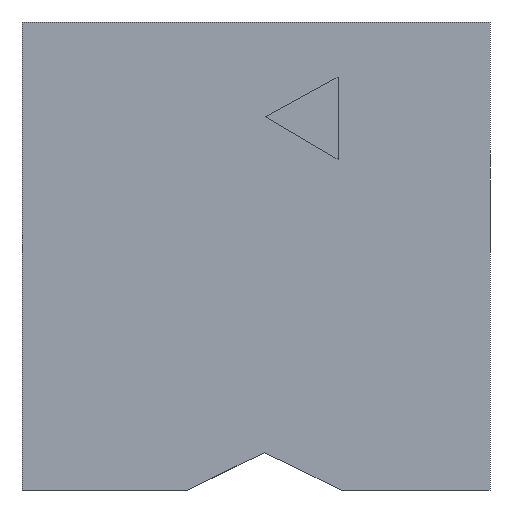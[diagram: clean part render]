
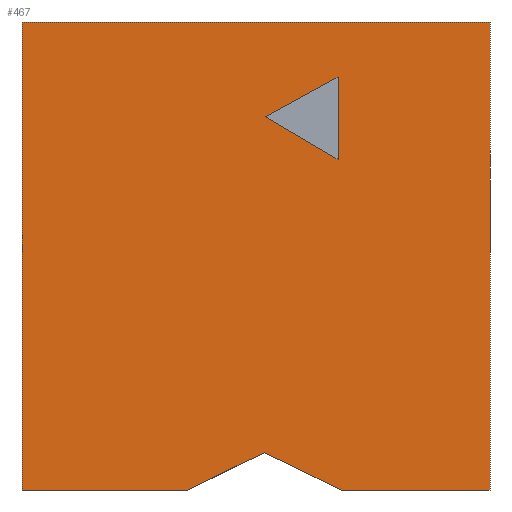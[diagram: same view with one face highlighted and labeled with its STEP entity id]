
A CAD part, front view. The second image highlights one B-rep face of the part: STEP entity #467.
In plain terms, the highlighted planar face has unit normal (0, -1, 0).
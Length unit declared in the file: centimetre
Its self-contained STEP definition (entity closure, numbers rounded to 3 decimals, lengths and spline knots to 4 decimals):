
#27 = LINE ( 'NONE', #169, #1761 ) ;
#40 = VECTOR ( 'NONE', #1564, 100. ) ;
#62 = ORIENTED_EDGE ( 'NONE', *, *, #796, .T. ) ;
#63 = CARTESIAN_POINT ( 'NONE',  ( 0., 0., 1000. ) ) ;
#73 = VECTOR ( 'NONE', #714, 100. ) ;
#77 = VECTOR ( 'NONE', #1599, 100. ) ;
#93 = CARTESIAN_POINT ( 'NONE',  ( 0., 0., 0. ) ) ;
#103 = CARTESIAN_POINT ( 'NONE',  ( 517.8257, 0., 79.8723 ) ) ;
#151 = CARTESIAN_POINT ( 'NONE',  ( 675.2194, 0., 706.2816 ) ) ;
#169 = CARTESIAN_POINT ( 'NONE',  ( 675.2194, 0., 706.2816 ) ) ;
#212 = PLANE ( 'NONE',  #804 ) ;
#217 = LINE ( 'NONE', #103, #40 ) ;
#227 = DIRECTION ( 'NONE',  ( 0.861, 0., -0.509 ) ) ;
#234 = EDGE_CURVE ( 'NONE', #256, #361, #1290, .T. ) ;
#246 = LINE ( 'NONE', #1107, #457 ) ;
#256 = VERTEX_POINT ( 'NONE', #597 ) ;
#361 = VERTEX_POINT ( 'NONE', #1713 ) ;
#363 = EDGE_CURVE ( 'NONE', #1316, #1715, #1467, .T. ) ;
#371 = ORIENTED_EDGE ( 'NONE', *, *, #448, .F. ) ;
#394 = CARTESIAN_POINT ( 'NONE',  ( 1000., 0., 0. ) ) ;
#429 = VECTOR ( 'NONE', #1537, 100. ) ;
#445 = EDGE_CURVE ( 'NONE', #627, #1602, #507, .T. ) ;
#448 = EDGE_CURVE ( 'NONE', #1715, #1451, #482, .T. ) ;
#457 = VECTOR ( 'NONE', #967, 100. ) ;
#467 = ADVANCED_FACE ( 'NONE', ( #1070, #1166 ), #212, .F. ) ;
#482 = LINE ( 'NONE', #1575, #516 ) ;
#507 = LINE ( 'NONE', #890, #77 ) ;
#514 = EDGE_CURVE ( 'NONE', #361, #1286, #1304, .T. ) ;
#516 = VECTOR ( 'NONE', #227, 100. ) ;
#519 = EDGE_CURVE ( 'NONE', #1020, #627, #217, .T. ) ;
#541 = ORIENTED_EDGE ( 'NONE', *, *, #514, .F. ) ;
#584 = EDGE_LOOP ( 'NONE', ( #802, #1736, #1603, #62, #541, #1037, #1542 ) ) ;
#597 = CARTESIAN_POINT ( 'NONE',  ( 0., 0., 1000. ) ) ;
#627 = VERTEX_POINT ( 'NONE', #1747 ) ;
#655 = EDGE_CURVE ( 'NONE', #256, #1004, #246, .T. ) ;
#702 = EDGE_CURVE ( 'NONE', #1451, #1316, #27, .T. ) ;
#714 = DIRECTION ( 'NONE',  ( 1., 0., 0. ) ) ;
#777 = DIRECTION ( 'NONE',  ( 0., 0., -1. ) ) ;
#782 = CARTESIAN_POINT ( 'NONE',  ( 675.2194, 0., 882.268 ) ) ;
#796 = EDGE_CURVE ( 'NONE', #1020, #1286, #1522, .T. ) ;
#802 = ORIENTED_EDGE ( 'NONE', *, *, #1460, .T. ) ;
#804 = AXIS2_PLACEMENT_3D ( 'NONE', #1058, #1299, #1205 ) ;
#808 = VECTOR ( 'NONE', #833, 100. ) ;
#831 = DIRECTION ( 'NONE',  ( 0., 0., 1. ) ) ;
#833 = DIRECTION ( 'NONE',  ( 1., 0., 0. ) ) ;
#890 = CARTESIAN_POINT ( 'NONE',  ( 353.3491, 0., 0. ) ) ;
#896 = CARTESIAN_POINT ( 'NONE',  ( 682.3023, 0., 0. ) ) ;
#967 = DIRECTION ( 'NONE',  ( 0., 0., -1. ) ) ;
#975 = CARTESIAN_POINT ( 'NONE',  ( 0., 0., 0. ) ) ;
#1004 = VERTEX_POINT ( 'NONE', #93 ) ;
#1020 = VERTEX_POINT ( 'NONE', #896 ) ;
#1037 = ORIENTED_EDGE ( 'NONE', *, *, #234, .F. ) ;
#1054 = EDGE_LOOP ( 'NONE', ( #1087, #1699, #371 ) ) ;
#1058 = CARTESIAN_POINT ( 'NONE',  ( 0., 0., 1000. ) ) ;
#1070 = FACE_BOUND ( 'NONE', #1054, .T. ) ;
#1087 = ORIENTED_EDGE ( 'NONE', *, *, #363, .F. ) ;
#1107 = CARTESIAN_POINT ( 'NONE',  ( 0., 0., 1000. ) ) ;
#1166 = FACE_OUTER_BOUND ( 'NONE', #584, .T. ) ;
#1182 = CARTESIAN_POINT ( 'NONE',  ( 353.3491, 0., 0. ) ) ;
#1184 = CARTESIAN_POINT ( 'NONE',  ( 675.2194, 0., 882.268 ) ) ;
#1205 = DIRECTION ( 'NONE',  ( 0., 0., 1. ) ) ;
#1260 = CARTESIAN_POINT ( 'NONE',  ( 0., 0., 0. ) ) ;
#1286 = VERTEX_POINT ( 'NONE', #394 ) ;
#1290 = LINE ( 'NONE', #63, #73 ) ;
#1299 = DIRECTION ( 'NONE',  ( 0., 1., 0. ) ) ;
#1304 = LINE ( 'NONE', #1427, #1673 ) ;
#1316 = VERTEX_POINT ( 'NONE', #782 ) ;
#1323 = CARTESIAN_POINT ( 'NONE',  ( 520.996, 0., 797.4177 ) ) ;
#1427 = CARTESIAN_POINT ( 'NONE',  ( 1000., 0., 1000. ) ) ;
#1451 = VERTEX_POINT ( 'NONE', #151 ) ;
#1460 = EDGE_CURVE ( 'NONE', #1004, #1602, #1659, .T. ) ;
#1467 = LINE ( 'NONE', #1184, #1591 ) ;
#1522 = LINE ( 'NONE', #1260, #429 ) ;
#1537 = DIRECTION ( 'NONE',  ( 1., 0., 0. ) ) ;
#1542 = ORIENTED_EDGE ( 'NONE', *, *, #655, .T. ) ;
#1564 = DIRECTION ( 'NONE',  ( -0.9, 0., 0.437 ) ) ;
#1575 = CARTESIAN_POINT ( 'NONE',  ( 520.996, 0., 797.4177 ) ) ;
#1591 = VECTOR ( 'NONE', #1721, 100. ) ;
#1599 = DIRECTION ( 'NONE',  ( -0.9, 0., -0.437 ) ) ;
#1602 = VERTEX_POINT ( 'NONE', #1182 ) ;
#1603 = ORIENTED_EDGE ( 'NONE', *, *, #519, .F. ) ;
#1659 = LINE ( 'NONE', #975, #808 ) ;
#1673 = VECTOR ( 'NONE', #777, 100. ) ;
#1699 = ORIENTED_EDGE ( 'NONE', *, *, #702, .F. ) ;
#1713 = CARTESIAN_POINT ( 'NONE',  ( 1000., 0., 1000. ) ) ;
#1715 = VERTEX_POINT ( 'NONE', #1323 ) ;
#1721 = DIRECTION ( 'NONE',  ( -0.876, 0., -0.482 ) ) ;
#1736 = ORIENTED_EDGE ( 'NONE', *, *, #445, .F. ) ;
#1747 = CARTESIAN_POINT ( 'NONE',  ( 517.8257, 0., 79.8723 ) ) ;
#1761 = VECTOR ( 'NONE', #831, 100. ) ;
